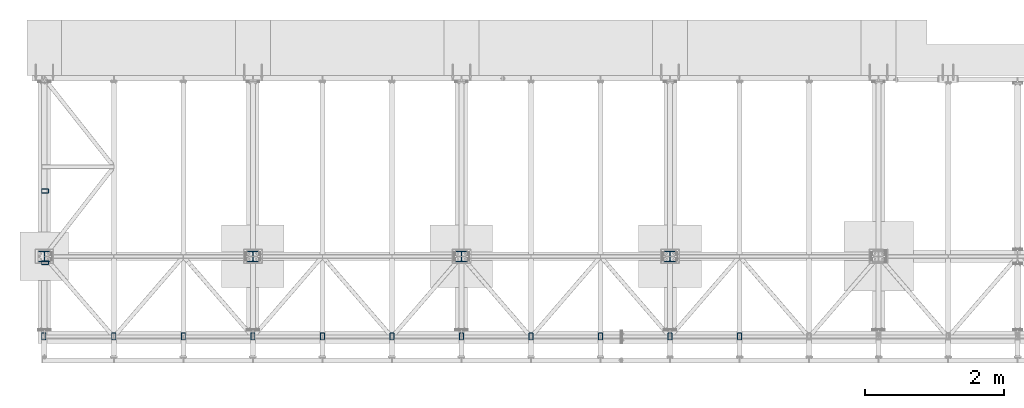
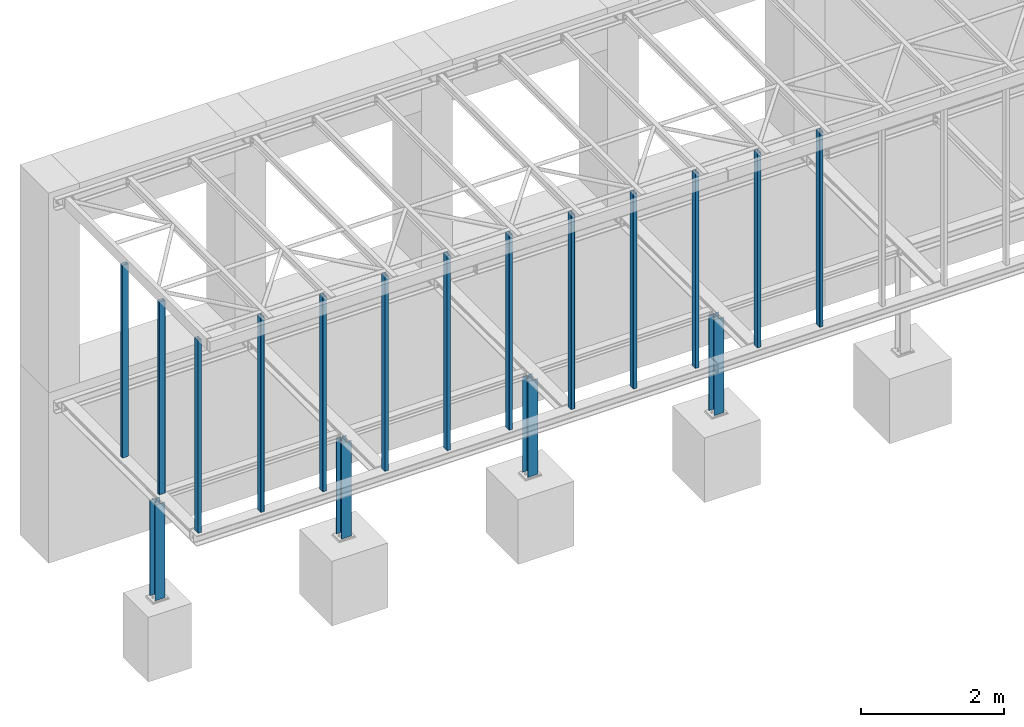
# One storey, part 1 of 23: 17 columns, 17 elements without a shape of their own.
"""IFC2X3 building model written with IfcOpenShell, lengths in millimetres."""

from ifc_helpers import new_model, si_unit, frame, origin_with_axes, origin_2d_with_axis, place, context, subcontext, project, spatial, hollow_rectangle, i_section, extrude, clip, halfspace, material, type_object, element, aggregate, save


model = new_model("IFC2X3")

# Units and contexts
model_context = context("Model", 3, precision=1e-05, world=origin_with_axes())
body_context = subcontext(model_context, "Body", "Model", "MODEL_VIEW")
ifc_project = project(units=[si_unit("LENGTHUNIT", "METRE", prefix="MILLI"), si_unit("AREAUNIT", "SQUARE_METRE"), si_unit("VOLUMEUNIT", "CUBIC_METRE"), si_unit("MASSUNIT", "GRAM", prefix="KILO"), si_unit("TIMEUNIT", "SECOND"), si_unit("PLANEANGLEUNIT", "RADIAN"), si_unit("SOLIDANGLEUNIT", "STERADIAN"), si_unit("THERMODYNAMICTEMPERATUREUNIT", "DEGREE_CELSIUS"), si_unit("LUMINOUSINTENSITYUNIT", "LUMEN")], contexts=[model_context])

# Site, building, storey
site_placement = place(None, origin_with_axes())
site = spatial("IfcSite", under=ifc_project, at=site_placement, Name="Undefined", CompositionType="ELEMENT")
building_placement = place(site_placement, origin_with_axes())
building = spatial("IfcBuilding", under=site, at=building_placement, Name="Undefined", CompositionType="ELEMENT")
storey_placement = place(building_placement, origin_with_axes())
storey = spatial("IfcBuildingStorey", under=building, at=storey_placement, Name="Undefined", CompositionType="ELEMENT", Elevation=0.0)

# Assembly, column
assembly_1_placement = place(storey_placement, origin_with_axes())
assembly_1 = element("IfcElementAssembly", 1, at=assembly_1_placement, inside=storey, Name="Steel Assembly", AssemblyPlace="NOTDEFINED", PredefinedType="RIGID_FRAME")
ifc_material = material(Name="STEEL/S235JR")
column_type_1 = type_object("IfcColumnType", Name="RHS100*60*3.2", PredefinedType="NOTDEFINED")
column_1_placement = place(assembly_1_placement, frame((60.0, 2200.0, -160.0), z_axis=(0.0, 0.0, 1.0), x_axis=(-1.0, 0.0, 0.0)))
column_1 = element("IfcColumn", 2, at=column_1_placement, type_object=column_type_1, material=ifc_material, Name="STLP", ObjectType="RHS100*60*3.2", context=body_context, shape_type="SweptSolid", body=[
    extrude(hollow_rectangle(XDim=60.0, YDim=100.0, WallThickness=3.2, InnerFilletRadius=3.2, OuterFilletRadius=6.4, at=origin_2d_with_axis()), frame((0.0, 0.0, 3280.0), z_axis=(0.0, 0.0, -1.0), x_axis=(0.0, 1.0, 0.0)), (0.0, 0.0, 1.0), 3280.0),
])
aggregate(assembly_1, [column_1])

assembly_2_placement = place(storey_placement, origin_with_axes())
assembly_2 = element("IfcElementAssembly", 3, at=assembly_2_placement, inside=storey, Name="Steel Assembly", AssemblyPlace="NOTDEFINED", PredefinedType="RIGID_FRAME")
column_2_placement = place(assembly_2_placement, frame((40.0, 110.0, -160.0), z_axis=(0.0, 0.0, 1.0), x_axis=(0.0, 1.0, 0.0)))
column_2 = element("IfcColumn", 4, at=column_2_placement, type_object=column_type_1, material=ifc_material, Name="STLP", ObjectType="RHS100*60*3.2", context=body_context, shape_type="SweptSolid", body=[
    extrude(hollow_rectangle(XDim=60.0, YDim=100.0, WallThickness=3.2, InnerFilletRadius=3.2, OuterFilletRadius=6.4, at=origin_2d_with_axis()), frame((0.0, 0.0, 3280.0), z_axis=(0.0, 0.0, -1.0), x_axis=(0.0, 1.0, 0.0)), (0.0, 0.0, 1.0), 3280.0),
])
aggregate(assembly_2, [column_2])

assembly_3_placement = place(storey_placement, origin_with_axes())
assembly_3 = element("IfcElementAssembly", 5, at=assembly_3_placement, inside=storey, Name="Steel Assembly", AssemblyPlace="NOTDEFINED", PredefinedType="RIGID_FRAME")
column_3_placement = place(assembly_3_placement, frame((10050.0, 110.0, -160.0), z_axis=(0.0, 0.0, 1.0), x_axis=(0.0, 1.0, 0.0)))
column_3 = element("IfcColumn", 6, at=column_3_placement, type_object=column_type_1, material=ifc_material, Name="STLP", ObjectType="RHS100*60*3.2", context=body_context, shape_type="SweptSolid", body=[
    extrude(hollow_rectangle(XDim=60.0, YDim=100.0, WallThickness=3.2, InnerFilletRadius=3.2, OuterFilletRadius=6.4, at=origin_2d_with_axis()), frame((0.0, 0.0, 3320.0), z_axis=(0.0, 0.0, -1.0), x_axis=(0.0, 1.0, 0.0)), (0.0, 0.0, 1.0), 3320.0),
])
aggregate(assembly_3, [column_3])

assembly_4_placement = place(storey_placement, origin_with_axes())
assembly_4 = element("IfcElementAssembly", 7, at=assembly_4_placement, inside=storey, Name="Steel Assembly", AssemblyPlace="NOTDEFINED", PredefinedType="RIGID_FRAME")
column_4_placement = place(assembly_4_placement, frame((7050.0, 110.0, -160.0), z_axis=(0.0, 0.0, 1.0), x_axis=(0.0, 1.0, 0.0)))
column_4 = element("IfcColumn", 8, at=column_4_placement, type_object=column_type_1, material=ifc_material, Name="STLP", ObjectType="RHS100*60*3.2", context=body_context, shape_type="SweptSolid", body=[
    extrude(hollow_rectangle(XDim=60.0, YDim=100.0, WallThickness=3.2, InnerFilletRadius=3.2, OuterFilletRadius=6.4, at=origin_2d_with_axis()), frame((0.0, 0.0, 3320.0), z_axis=(0.0, 0.0, -1.0), x_axis=(0.0, 1.0, 0.0)), (0.0, 0.0, 1.0), 3320.0),
])
aggregate(assembly_4, [column_4])

assembly_5_placement = place(storey_placement, origin_with_axes())
assembly_5 = element("IfcElementAssembly", 9, at=assembly_5_placement, inside=storey, Name="Steel Assembly", AssemblyPlace="NOTDEFINED", PredefinedType="RIGID_FRAME")
column_5_placement = place(assembly_5_placement, frame((8050.0, 110.0, -160.0), z_axis=(0.0, 0.0, 1.0), x_axis=(0.0, 1.0, 0.0)))
column_5 = element("IfcColumn", 10, at=column_5_placement, type_object=column_type_1, material=ifc_material, Name="STLP", ObjectType="RHS100*60*3.2", context=body_context, shape_type="SweptSolid", body=[
    extrude(hollow_rectangle(XDim=60.0, YDim=100.0, WallThickness=3.2, InnerFilletRadius=3.2, OuterFilletRadius=6.4, at=origin_2d_with_axis()), frame((0.0, 0.0, 3320.0), z_axis=(0.0, 0.0, -1.0), x_axis=(0.0, 1.0, 0.0)), (0.0, 0.0, 1.0), 3320.0),
])
aggregate(assembly_5, [column_5])

assembly_6_placement = place(storey_placement, origin_with_axes())
assembly_6 = element("IfcElementAssembly", 11, at=assembly_6_placement, inside=storey, Name="Steel Assembly", AssemblyPlace="NOTDEFINED", PredefinedType="RIGID_FRAME")
column_6_placement = place(assembly_6_placement, frame((4050.0, 110.0, -160.0), z_axis=(0.0, 0.0, 1.0), x_axis=(0.0, 1.0, 0.0)))
column_6 = element("IfcColumn", 12, at=column_6_placement, type_object=column_type_1, material=ifc_material, Name="STLP", ObjectType="RHS100*60*3.2", context=body_context, shape_type="SweptSolid", body=[
    extrude(hollow_rectangle(XDim=60.0, YDim=100.0, WallThickness=3.2, InnerFilletRadius=3.2, OuterFilletRadius=6.4, at=origin_2d_with_axis()), frame((0.0, 0.0, 3320.0), z_axis=(0.0, 0.0, -1.0), x_axis=(0.0, 1.0, 0.0)), (0.0, 0.0, 1.0), 3320.0),
])
aggregate(assembly_6, [column_6])

assembly_7_placement = place(storey_placement, origin_with_axes())
assembly_7 = element("IfcElementAssembly", 13, at=assembly_7_placement, inside=storey, Name="Steel Assembly", AssemblyPlace="NOTDEFINED", PredefinedType="RIGID_FRAME")
column_7_placement = place(assembly_7_placement, frame((5050.0, 110.0, -160.0), z_axis=(0.0, 0.0, 1.0), x_axis=(0.0, 1.0, 0.0)))
column_7 = element("IfcColumn", 14, at=column_7_placement, type_object=column_type_1, material=ifc_material, Name="STLP", ObjectType="RHS100*60*3.2", context=body_context, shape_type="SweptSolid", body=[
    extrude(hollow_rectangle(XDim=60.0, YDim=100.0, WallThickness=3.2, InnerFilletRadius=3.2, OuterFilletRadius=6.4, at=origin_2d_with_axis()), frame((0.0, 0.0, 3320.0), z_axis=(0.0, 0.0, -1.0), x_axis=(0.0, 1.0, 0.0)), (0.0, 0.0, 1.0), 3320.0),
])
aggregate(assembly_7, [column_7])

assembly_8_placement = place(storey_placement, origin_with_axes())
assembly_8 = element("IfcElementAssembly", 15, at=assembly_8_placement, inside=storey, Name="Steel Assembly", AssemblyPlace="NOTDEFINED", PredefinedType="RIGID_FRAME")
column_8_placement = place(assembly_8_placement, frame((1050.0, 110.0, -160.0), z_axis=(0.0, 0.0, 1.0), x_axis=(0.0, 1.0, 0.0)))
column_8 = element("IfcColumn", 16, at=column_8_placement, type_object=column_type_1, material=ifc_material, Name="STLP", ObjectType="RHS100*60*3.2", context=body_context, shape_type="SweptSolid", body=[
    extrude(hollow_rectangle(XDim=60.0, YDim=100.0, WallThickness=3.2, InnerFilletRadius=3.2, OuterFilletRadius=6.4, at=origin_2d_with_axis()), frame((0.0, 0.0, 3320.0), z_axis=(0.0, 0.0, -1.0), x_axis=(0.0, 1.0, 0.0)), (0.0, 0.0, 1.0), 3320.0),
])
aggregate(assembly_8, [column_8])

assembly_9_placement = place(storey_placement, origin_with_axes())
assembly_9 = element("IfcElementAssembly", 17, at=assembly_9_placement, inside=storey, Name="Steel Assembly", AssemblyPlace="NOTDEFINED", PredefinedType="RIGID_FRAME")
column_9_placement = place(assembly_9_placement, frame((2050.0, 110.0, -160.0), z_axis=(0.0, 0.0, 1.0), x_axis=(0.0, 1.0, 0.0)))
column_9 = element("IfcColumn", 18, at=column_9_placement, type_object=column_type_1, material=ifc_material, Name="STLP", ObjectType="RHS100*60*3.2", context=body_context, shape_type="SweptSolid", body=[
    extrude(hollow_rectangle(XDim=60.0, YDim=100.0, WallThickness=3.2, InnerFilletRadius=3.2, OuterFilletRadius=6.4, at=origin_2d_with_axis()), frame((0.0, 0.0, 3320.0), z_axis=(0.0, 0.0, -1.0), x_axis=(0.0, 1.0, 0.0)), (0.0, 0.0, 1.0), 3320.0),
])
aggregate(assembly_9, [column_9])

assembly_10_placement = place(storey_placement, origin_with_axes())
assembly_10 = element("IfcElementAssembly", 19, at=assembly_10_placement, inside=storey, Name="Steel Assembly", AssemblyPlace="NOTDEFINED", PredefinedType="RIGID_FRAME")
column_10_placement = place(assembly_10_placement, frame((60.0, 1170.0, -160.0), z_axis=(0.0, 0.0, 1.0), x_axis=(1.0, 0.0, 0.0)))
column_10 = element("IfcColumn", 20, at=column_10_placement, type_object=column_type_1, material=ifc_material, Name="STLP", ObjectType="RHS100*60*3.2", context=body_context, shape_type="SweptSolid", body=[
    extrude(hollow_rectangle(XDim=60.0, YDim=100.0, WallThickness=3.2, InnerFilletRadius=3.2, OuterFilletRadius=6.4, at=origin_2d_with_axis()), frame((0.0, 0.0, 3280.0), z_axis=(0.0, 0.0, -1.0), x_axis=(0.0, 1.0, 0.0)), (0.0, 0.0, 1.0), 3280.0),
])
aggregate(assembly_10, [column_10])

assembly_11_placement = place(storey_placement, origin_with_axes())
assembly_11 = element("IfcElementAssembly", 21, at=assembly_11_placement, inside=storey, Name="Steel Assembly", AssemblyPlace="NOTDEFINED", PredefinedType="RIGID_FRAME")
column_11_placement = place(assembly_11_placement, frame((9050.0, 110.0, -160.0), z_axis=(0.0, 0.0, 1.0), x_axis=(0.0, 1.0, 0.0)))
column_11 = element("IfcColumn", 22, at=column_11_placement, type_object=column_type_1, material=ifc_material, Name="STLP", ObjectType="RHS100*60*3.2", context=body_context, shape_type="SweptSolid", body=[
    extrude(hollow_rectangle(XDim=60.0, YDim=100.0, WallThickness=3.2, InnerFilletRadius=3.2, OuterFilletRadius=6.4, at=origin_2d_with_axis()), frame((0.0, 0.0, 3320.0), z_axis=(0.0, 0.0, -1.0), x_axis=(0.0, 1.0, 0.0)), (0.0, 0.0, 1.0), 3320.0),
])
aggregate(assembly_11, [column_11])

assembly_12_placement = place(storey_placement, origin_with_axes())
assembly_12 = element("IfcElementAssembly", 23, at=assembly_12_placement, inside=storey, Name="Steel Assembly", AssemblyPlace="NOTDEFINED", PredefinedType="RIGID_FRAME")
column_12_placement = place(assembly_12_placement, frame((6050.0, 110.0, -160.0), z_axis=(0.0, 0.0, 1.0), x_axis=(0.0, 1.0, 0.0)))
column_12 = element("IfcColumn", 24, at=column_12_placement, type_object=column_type_1, material=ifc_material, Name="STLP", ObjectType="RHS100*60*3.2", context=body_context, shape_type="SweptSolid", body=[
    extrude(hollow_rectangle(XDim=60.0, YDim=100.0, WallThickness=3.2, InnerFilletRadius=3.2, OuterFilletRadius=6.4, at=origin_2d_with_axis()), frame((0.0, 0.0, 3320.0), z_axis=(0.0, 0.0, -1.0), x_axis=(0.0, 1.0, 0.0)), (0.0, 0.0, 1.0), 3320.0),
])
aggregate(assembly_12, [column_12])

assembly_13_placement = place(storey_placement, origin_with_axes())
assembly_13 = element("IfcElementAssembly", 25, at=assembly_13_placement, inside=storey, Name="Steel Assembly", AssemblyPlace="NOTDEFINED", PredefinedType="RIGID_FRAME")
column_13_placement = place(assembly_13_placement, frame((3050.0, 110.0, -160.0), z_axis=(0.0, 0.0, 1.0), x_axis=(0.0, 1.0, 0.0)))
column_13 = element("IfcColumn", 26, at=column_13_placement, type_object=column_type_1, material=ifc_material, Name="STLP", ObjectType="RHS100*60*3.2", context=body_context, shape_type="SweptSolid", body=[
    extrude(hollow_rectangle(XDim=60.0, YDim=100.0, WallThickness=3.2, InnerFilletRadius=3.2, OuterFilletRadius=6.4, at=origin_2d_with_axis()), frame((0.0, 0.0, 3320.0), z_axis=(0.0, 0.0, -1.0), x_axis=(0.0, 1.0, 0.0)), (0.0, 0.0, 1.0), 3320.0),
])
aggregate(assembly_13, [column_13])

assembly_14_placement = place(storey_placement, origin_with_axes())
assembly_14 = element("IfcElementAssembly", 27, at=assembly_14_placement, inside=storey, Name="Steel Assembly", AssemblyPlace="NOTDEFINED", PredefinedType="RIGID_FRAME")
column_type_2 = type_object("IfcColumnType", Name="HEA160", PredefinedType="NOTDEFINED")
column_14_placement = place(assembly_14_placement, frame((9050.0, 1260.0, -1975.0), z_axis=(0.0, 0.0, 1.0), x_axis=(0.0, 1.0, 0.0)))
column_14 = element("IfcColumn", 28, at=column_14_placement, type_object=column_type_2, material=ifc_material, Name="STLP", ObjectType="HEA160", context=body_context, shape_type="SweptSolid", body=[
    extrude(i_section(OverallWidth=160.0, OverallDepth=152.0, WebThickness=6.0, FlangeThickness=9.0, FilletRadius=15.0, at=origin_2d_with_axis()), frame((0.0, 0.0, 1625.0), z_axis=(0.0, 0.0, -1.0), x_axis=(0.0, 1.0, 0.0)), (0.0, 0.0, 1.0), 1625.0),
])
aggregate(assembly_14, [column_14])

assembly_15_placement = place(storey_placement, origin_with_axes())
assembly_15 = element("IfcElementAssembly", 29, at=assembly_15_placement, inside=storey, Name="Steel Assembly", AssemblyPlace="NOTDEFINED", PredefinedType="RIGID_FRAME")
column_15_placement = place(assembly_15_placement, frame((6050.0, 1260.0, -1975.0), z_axis=(0.0, 0.0, 1.0), x_axis=(0.0, 1.0, 0.0)))
column_15 = element("IfcColumn", 30, at=column_15_placement, type_object=column_type_2, material=ifc_material, Name="STLP", ObjectType="HEA160", context=body_context, shape_type="SweptSolid", body=[
    extrude(i_section(OverallWidth=160.0, OverallDepth=152.0, WebThickness=6.0, FlangeThickness=9.0, FilletRadius=15.0, at=origin_2d_with_axis()), frame((0.0, 0.0, 1625.0), z_axis=(0.0, 0.0, -1.0), x_axis=(0.0, 1.0, 0.0)), (0.0, 0.0, 1.0), 1625.0),
])
aggregate(assembly_15, [column_15])

assembly_16_placement = place(storey_placement, origin_with_axes())
assembly_16 = element("IfcElementAssembly", 31, at=assembly_16_placement, inside=storey, Name="Steel Assembly", AssemblyPlace="NOTDEFINED", PredefinedType="RIGID_FRAME")
column_16_placement = place(assembly_16_placement, frame((3050.0, 1260.0, -1975.0), z_axis=(0.0, 0.0, 1.0), x_axis=(0.0, 1.0, 0.0)))
column_16 = element("IfcColumn", 32, at=column_16_placement, type_object=column_type_2, material=ifc_material, Name="STLP", ObjectType="HEA160", context=body_context, shape_type="SweptSolid", body=[
    extrude(i_section(OverallWidth=160.0, OverallDepth=152.0, WebThickness=6.0, FlangeThickness=9.0, FilletRadius=15.0, at=origin_2d_with_axis()), frame((0.0, 0.0, 1625.0), z_axis=(0.0, 0.0, -1.0), x_axis=(0.0, 1.0, 0.0)), (0.0, 0.0, 1.0), 1625.0),
])
aggregate(assembly_16, [column_16])

assembly_17_placement = place(storey_placement, origin_with_axes())
assembly_17 = element("IfcElementAssembly", 33, at=assembly_17_placement, inside=storey, Name="Steel Assembly", AssemblyPlace="NOTDEFINED", PredefinedType="RIGID_FRAME")
column_17_placement = place(assembly_17_placement, frame((50.0, 1260.0, -1985.0), z_axis=(0.0, 0.0, 1.0), x_axis=(0.0, 1.0, 0.0)))
column_17 = element("IfcColumn", 34, at=column_17_placement, type_object=column_type_2, material=ifc_material, Name="STLP", ObjectType="HEA160", context=body_context, shape_type="Clipping", body=[
    clip(extrude(i_section(OverallWidth=160.0, OverallDepth=152.0, WebThickness=6.0, FlangeThickness=9.0, FilletRadius=15.0, at=origin_2d_with_axis()), frame((0.0, 0.0, 1635.0), z_axis=(0.0, 0.0, -1.0), x_axis=(0.0, 1.0, 0.0)), (0.0, 0.0, 1.0), 1625.0), halfspace(frame((-76.0, 0.0, 10.0), z_axis=(0.0, 0.0, 1.0), x_axis=(0.0, 1.0, 0.0)), True)),
])
aggregate(assembly_17, [column_17])

save(model, "model.ifc")
